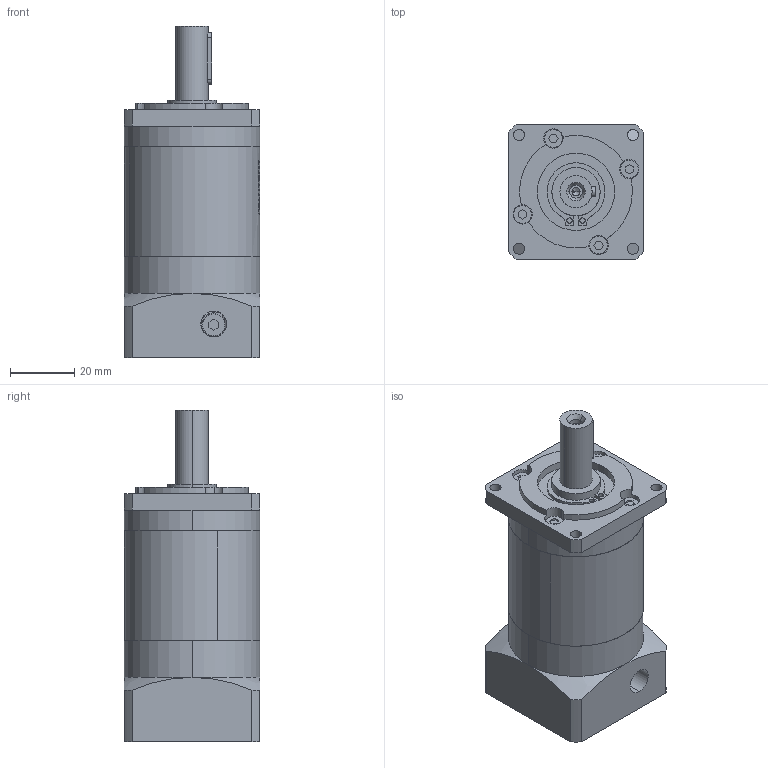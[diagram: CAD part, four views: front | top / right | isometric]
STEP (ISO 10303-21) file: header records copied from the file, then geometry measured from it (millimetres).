
FILE_DESCRIPTION (( 'STEP AP203' ), '1' );
FILE_NAME ('PLF040-L2-8-30-45.STEP', '2022-06-22T03:47:06', ( 'Windows User' ), ( 'P R C' ), 'SwSTEP 2.0', 'SolidWorks 2016', '' );
FILE_SCHEMA (( 'CONFIG_CONTROL_DESIGN' ));
Length unit declared in the file: millimetre
Products named in the file (7): GB／T276-94深沟球轴承61902-2RZ; PLF040-L2-8-30-45; PLF040 奻屳唳_D1-70 D2-5.5 D3-14 D4-17 D5-50 L1-30 L2-35 L3-3 A1-60 S1-3 S2-20 S3-5 S4-18 B-5 H-16 C-M5 梓袧; PLF042 內齿圈_二级内齿圈; PLF040 帣釱-8-30-M3-45_D6-60 D7-14 梓袧; 邧埴瑩 3x3x16; 囀鞠褒蹟佪-M4℅12
Assembly tree (6 placements, depth 2):
  PLF040-L2-8-30-45
    PLF040 奻屳唳_D1-70 D2-5.5 D3-14 D4-17 D5-50 L1-30 L2-35 L3-3 A1-60 S1-3 S2-20 S3-5 S4-18 B-5 H-16 C-M5 梓袧
    PLF042 內齿圈_二级内齿圈
    PLF040 帣釱-8-30-M3-45_D6-60 D7-14 梓袧
    邧埴瑩 3x3x16
    囀鞠褒蹟佪-M4℅12
    GB／T276-94深沟球轴承61902-2RZ
Bounding box: 42 x 42 x 103 mm (x, y, z)
Volume: 104071.7 mm3; surface area: 36425.3 mm2
Topology: 6 solids, 6 shells, 950 faces, 2595 edges, 1715 vertices
Faces by surface type: plane 514, cylinder 157, bspline 146, sphere 74, torus 45, cone 14
Entity records: 40763 total; most frequent: CARTESIAN_POINT 17218, ORIENTED_EDGE 5110, DIRECTION 4145, EDGE_CURVE 2555, VERTEX_POINT 1695, AXIS2_PLACEMENT_3D 1420, VECTOR 1305, LINE 1305
